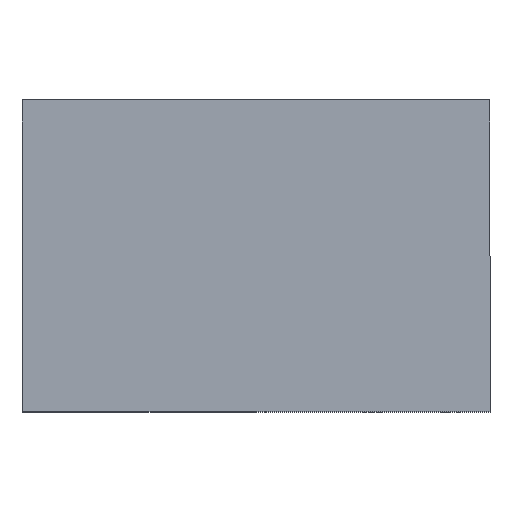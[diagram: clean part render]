
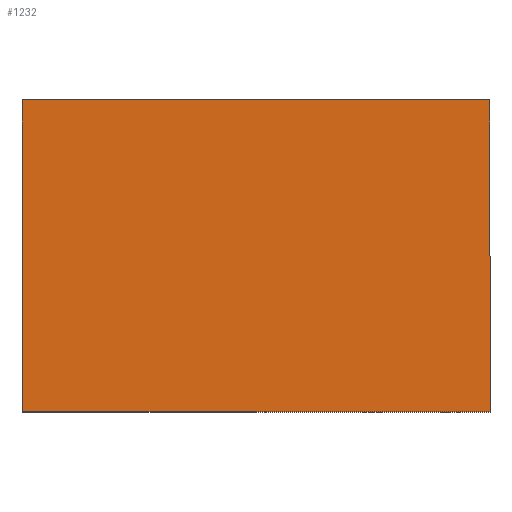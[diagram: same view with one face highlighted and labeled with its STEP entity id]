
A CAD part, top view. The second image highlights one B-rep face of the part: STEP entity #1232.
In plain terms, the highlighted planar face has unit normal (0, 0, 1).
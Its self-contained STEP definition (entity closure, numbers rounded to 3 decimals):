
#212 = CARTESIAN_POINT ( 'NONE',  ( 30., 20., 10. ) ) ;
#232 = DIRECTION ( 'NONE',  ( 0., 1., 0. ) ) ;
#321 = DIRECTION ( 'NONE',  ( 1., 0., 0. ) ) ;
#338 = CARTESIAN_POINT ( 'NONE',  ( -30., -20., 10. ) ) ;
#392 = DIRECTION ( 'NONE',  ( -1., 0., 0. ) ) ;
#404 = DIRECTION ( 'NONE',  ( 0., -1., 0. ) ) ;
#414 = CARTESIAN_POINT ( 'NONE',  ( -30., 20., 10. ) ) ;
#416 = CARTESIAN_POINT ( 'NONE',  ( -30., 20., 10. ) ) ;
#553 = VERTEX_POINT ( 'NONE', #1697 ) ;
#556 = VERTEX_POINT ( 'NONE', #1701 ) ;
#580 = VERTEX_POINT ( 'NONE', #1720 ) ;
#616 = VERTEX_POINT ( 'NONE', #1765 ) ;
#680 = EDGE_LOOP ( 'NONE', ( #2735, #2724, #2757, #2701 ) ) ;
#784 = FACE_OUTER_BOUND ( 'NONE', #680, .T. ) ;
#1136 = LINE ( 'NONE', #212, #1137 ) ;
#1137 = VECTOR ( 'NONE', #232, 1000. ) ;
#1147 = LINE ( 'NONE', #416, #1203 ) ;
#1169 = LINE ( 'NONE', #338, #1183 ) ;
#1173 = LINE ( 'NONE', #414, #1195 ) ;
#1183 = VECTOR ( 'NONE', #321, 1000. ) ;
#1195 = VECTOR ( 'NONE', #404, 1000. ) ;
#1203 = VECTOR ( 'NONE', #392, 1000. ) ;
#1232 = ADVANCED_FACE ( 'NONE', ( #784 ), #1818, .T. ) ;
#1697 = CARTESIAN_POINT ( 'NONE',  ( 30., 20., 10. ) ) ;
#1701 = CARTESIAN_POINT ( 'NONE',  ( -30., 20., 10. ) ) ;
#1720 = CARTESIAN_POINT ( 'NONE',  ( -30., -20., 10. ) ) ;
#1765 = CARTESIAN_POINT ( 'NONE',  ( 30., -20., 10. ) ) ;
#1818 = PLANE ( 'NONE',  #2411 ) ;
#1830 = CARTESIAN_POINT ( 'NONE',  ( 0., 0., 10. ) ) ;
#1842 = DIRECTION ( 'NONE',  ( 0., 0., 1. ) ) ;
#1843 = DIRECTION ( 'NONE',  ( 1., 0., 0. ) ) ;
#2411 = AXIS2_PLACEMENT_3D ( 'NONE', #1830, #1842, #1843 ) ;
#2701 = ORIENTED_EDGE ( 'NONE', *, *, #2856, .T. ) ;
#2724 = ORIENTED_EDGE ( 'NONE', *, *, #2874, .T. ) ;
#2735 = ORIENTED_EDGE ( 'NONE', *, *, #2829, .T. ) ;
#2757 = ORIENTED_EDGE ( 'NONE', *, *, #2869, .T. ) ;
#2829 = EDGE_CURVE ( 'NONE', #616, #553, #1136, .T. ) ;
#2856 = EDGE_CURVE ( 'NONE', #580, #616, #1169, .T. ) ;
#2869 = EDGE_CURVE ( 'NONE', #556, #580, #1173, .T. ) ;
#2874 = EDGE_CURVE ( 'NONE', #553, #556, #1147, .T. ) ;
